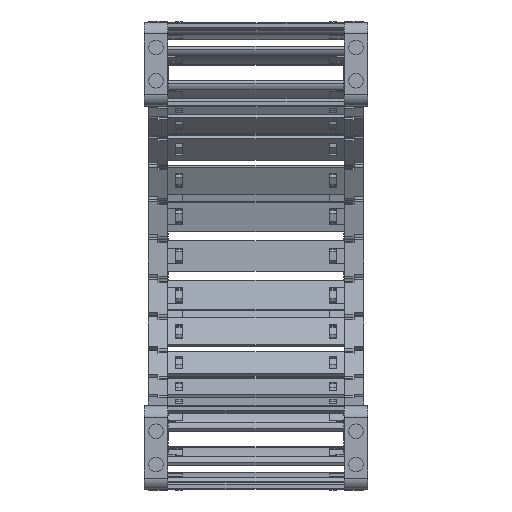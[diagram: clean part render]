
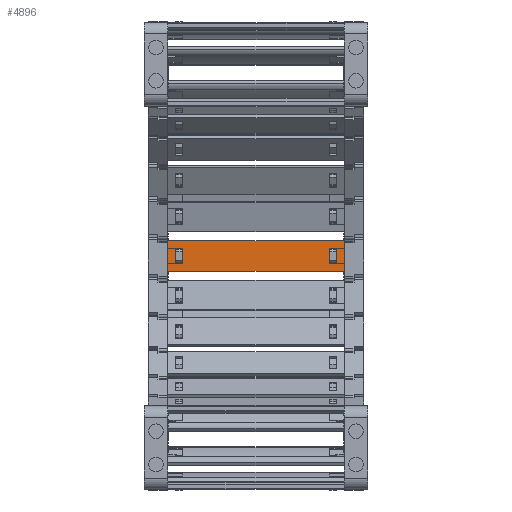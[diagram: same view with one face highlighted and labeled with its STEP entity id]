
A CAD part, left-side view. The second image highlights one B-rep face of the part: STEP entity #4896.
In plain terms, the highlighted planar face has unit normal (-1, 0, 0) as drawn and (0, 1, 0) by its records, which use the part's own axes.
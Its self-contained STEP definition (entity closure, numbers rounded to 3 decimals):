
#4022=DIRECTION('',(0.,0.,1.));
#4023=VECTOR('',#4022,15.8);
#4024=CARTESIAN_POINT('',(75.74,1.5,-7.9));
#4025=LINE('',#4024,#4023);
#4029=DIRECTION('',(-1.,0.,0.));
#4030=VECTOR('',#4029,90.5);
#4031=CARTESIAN_POINT('',(75.74,1.5,7.9));
#4032=LINE('',#4031,#4030);
#4036=DIRECTION('',(0.,0.,-1.));
#4037=VECTOR('',#4036,15.8);
#4038=CARTESIAN_POINT('',(-14.76,1.5,7.9));
#4039=LINE('',#4038,#4037);
#4043=DIRECTION('',(1.,0.,0.));
#4044=VECTOR('',#4043,3.648);
#4045=CARTESIAN_POINT('',(68.122,1.5,4.075));
#4046=LINE('',#4045,#4044);
#4050=DIRECTION('',(0.,0.,-1.));
#4051=VECTOR('',#4050,8.15);
#4052=CARTESIAN_POINT('',(71.77,1.5,4.075));
#4053=LINE('',#4052,#4051);
#4057=DIRECTION('',(-1.,0.,0.));
#4058=VECTOR('',#4057,3.648);
#4059=CARTESIAN_POINT('',(71.77,1.5,-4.075));
#4060=LINE('',#4059,#4058);
#4064=DIRECTION('',(0.,0.,-1.));
#4065=VECTOR('',#4064,8.15);
#4066=CARTESIAN_POINT('',(-7.142,1.5,4.075));
#4067=LINE('',#4066,#4065);
#4071=DIRECTION('',(-1.,0.,0.));
#4072=VECTOR('',#4071,3.648);
#4073=CARTESIAN_POINT('',(-7.142,1.5,-4.075));
#4074=LINE('',#4073,#4072);
#4078=DIRECTION('',(0.,0.,1.));
#4079=VECTOR('',#4078,8.15);
#4080=CARTESIAN_POINT('',(-10.79,1.5,-4.075));
#4081=LINE('',#4080,#4079);
#4085=DIRECTION('',(1.,0.,0.));
#4086=VECTOR('',#4085,3.648);
#4087=CARTESIAN_POINT('',(-10.79,1.5,4.075));
#4088=LINE('',#4087,#4086);
#4099=DIRECTION('',(-1.,0.,0.));
#4100=VECTOR('',#4099,90.5);
#4101=CARTESIAN_POINT('',(75.74,1.5,-7.9));
#4102=LINE('',#4101,#4100);
#4307=DIRECTION('',(0.,0.,-1.));
#4308=VECTOR('',#4307,8.15);
#4309=CARTESIAN_POINT('',(68.122,1.5,4.075));
#4310=LINE('',#4309,#4308);
#4606=CARTESIAN_POINT('',(71.77,1.5,4.075));
#4607=VERTEX_POINT('',#4606);
#4608=CARTESIAN_POINT('',(68.122,1.5,4.075));
#4609=VERTEX_POINT('',#4608);
#4650=CARTESIAN_POINT('',(68.122,1.5,-4.075));
#4651=VERTEX_POINT('',#4650);
#4652=CARTESIAN_POINT('',(71.77,1.5,-4.075));
#4653=VERTEX_POINT('',#4652);
#4654=CARTESIAN_POINT('',(75.74,1.5,7.9));
#4656=VERTEX_POINT('',#4654);
#4658=CARTESIAN_POINT('',(75.74,1.5,-7.9));
#4659=VERTEX_POINT('',#4658);
#4682=CARTESIAN_POINT('',(-7.142,1.5,4.075));
#4683=CARTESIAN_POINT('',(-7.142,1.5,-4.075));
#4684=VERTEX_POINT('',#4682);
#4685=VERTEX_POINT('',#4683);
#4686=CARTESIAN_POINT('',(-10.79,1.5,-4.075));
#4687=VERTEX_POINT('',#4686);
#4688=CARTESIAN_POINT('',(-10.79,1.5,4.075));
#4689=VERTEX_POINT('',#4688);
#4690=CARTESIAN_POINT('',(-14.76,1.5,7.9));
#4691=VERTEX_POINT('',#4690);
#4694=CARTESIAN_POINT('',(-14.76,1.5,-7.9));
#4695=VERTEX_POINT('',#4694);
#4865=CARTESIAN_POINT('',(107.48,1.5,10.061));
#4866=DIRECTION('',(0.,-1.,0.));
#4867=DIRECTION('',(0.,0.,-1.));
#4868=AXIS2_PLACEMENT_3D('',#4865,#4866,#4867);
#4869=PLANE('',#4868);
#4870=ORIENTED_EDGE('',*,*,#4768,.T.);
#4871=ORIENTED_EDGE('',*,*,#4806,.T.);
#4872=ORIENTED_EDGE('',*,*,#4831,.T.);
#4874=ORIENTED_EDGE('',*,*,#4873,.F.);
#4875=EDGE_LOOP('',(#4870,#4871,#4872,#4874));
#4876=FACE_OUTER_BOUND('',#4875,.F.);
#4878=ORIENTED_EDGE('',*,*,#4877,.F.);
#4879=ORIENTED_EDGE('',*,*,#4707,.T.);
#4881=ORIENTED_EDGE('',*,*,#4880,.T.);
#4883=ORIENTED_EDGE('',*,*,#4882,.T.);
#4884=EDGE_LOOP('',(#4878,#4879,#4881,#4883));
#4885=FACE_BOUND('',#4884,.F.);
#4887=ORIENTED_EDGE('',*,*,#4886,.T.);
#4889=ORIENTED_EDGE('',*,*,#4888,.T.);
#4891=ORIENTED_EDGE('',*,*,#4890,.T.);
#4893=ORIENTED_EDGE('',*,*,#4892,.T.);
#4894=EDGE_LOOP('',(#4887,#4889,#4891,#4893));
#4895=FACE_BOUND('',#4894,.F.);
#4896=ADVANCED_FACE('',(#4876,#4885,#4895),#4869,.F.);
#4707=EDGE_CURVE('',#4609,#4607,#4046,.T.);
#4768=EDGE_CURVE('',#4659,#4656,#4025,.T.);
#4806=EDGE_CURVE('',#4656,#4691,#4032,.T.);
#4831=EDGE_CURVE('',#4691,#4695,#4039,.T.);
#4873=EDGE_CURVE('',#4659,#4695,#4102,.T.);
#4877=EDGE_CURVE('',#4609,#4651,#4310,.T.);
#4880=EDGE_CURVE('',#4607,#4653,#4053,.T.);
#4882=EDGE_CURVE('',#4653,#4651,#4060,.T.);
#4886=EDGE_CURVE('',#4684,#4685,#4067,.T.);
#4888=EDGE_CURVE('',#4685,#4687,#4074,.T.);
#4890=EDGE_CURVE('',#4687,#4689,#4081,.T.);
#4892=EDGE_CURVE('',#4689,#4684,#4088,.T.);
